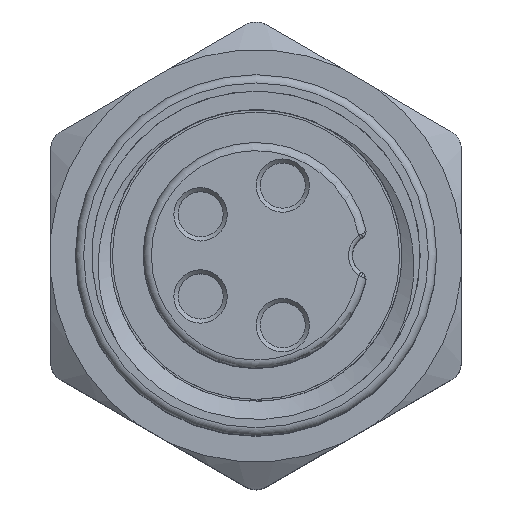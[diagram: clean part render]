
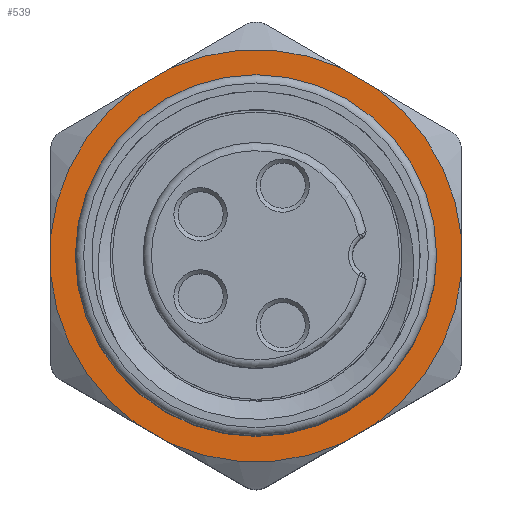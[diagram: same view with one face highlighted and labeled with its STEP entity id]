
A CAD part, top view. The second image highlights one B-rep face of the part: STEP entity #539.
In plain terms, the highlighted planar face has unit normal (0, 0, 1).
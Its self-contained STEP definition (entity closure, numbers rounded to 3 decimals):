
#279=PLANE('',#2256);
#340=LINE('',#3674,#439);
#341=LINE('',#3678,#440);
#342=LINE('',#3682,#441);
#343=LINE('',#3686,#442);
#344=LINE('',#3690,#443);
#345=LINE('',#3694,#444);
#439=VECTOR('',#2490,1.);
#440=VECTOR('',#2493,1.);
#441=VECTOR('',#2496,1.);
#442=VECTOR('',#2499,1.);
#443=VECTOR('',#2502,1.);
#444=VECTOR('',#2505,1.);
#539=ADVANCED_FACE('',(#804,#805),#279,.F.);
#804=FACE_BOUND('',#888,.T.);
#805=FACE_BOUND('',#889,.T.);
#888=EDGE_LOOP('',(#1073));
#889=EDGE_LOOP('',(#1074,#1075,#1076,#1077,#1078,#1079,#1080,#1081,#1082,
#1083,#1084,#1085));
#1073=ORIENTED_EDGE('',*,*,#1855,.T.);
#1074=ORIENTED_EDGE('',*,*,#1856,.F.);
#1075=ORIENTED_EDGE('',*,*,#1857,.F.);
#1076=ORIENTED_EDGE('',*,*,#1858,.F.);
#1077=ORIENTED_EDGE('',*,*,#1859,.F.);
#1078=ORIENTED_EDGE('',*,*,#1860,.F.);
#1079=ORIENTED_EDGE('',*,*,#1861,.F.);
#1080=ORIENTED_EDGE('',*,*,#1862,.F.);
#1081=ORIENTED_EDGE('',*,*,#1863,.F.);
#1082=ORIENTED_EDGE('',*,*,#1864,.F.);
#1083=ORIENTED_EDGE('',*,*,#1865,.F.);
#1084=ORIENTED_EDGE('',*,*,#1866,.F.);
#1085=ORIENTED_EDGE('',*,*,#1867,.F.);
#1653=VERTEX_POINT('',#3670);
#1654=VERTEX_POINT('',#3672);
#1655=VERTEX_POINT('',#3673);
#1656=VERTEX_POINT('',#3675);
#1657=VERTEX_POINT('',#3677);
#1658=VERTEX_POINT('',#3679);
#1659=VERTEX_POINT('',#3681);
#1660=VERTEX_POINT('',#3683);
#1661=VERTEX_POINT('',#3685);
#1662=VERTEX_POINT('',#3687);
#1663=VERTEX_POINT('',#3689);
#1664=VERTEX_POINT('',#3691);
#1665=VERTEX_POINT('',#3693);
#1855=EDGE_CURVE('',#1653,#1653,#2143,.T.);
#1856=EDGE_CURVE('',#1654,#1655,#2144,.T.);
#1857=EDGE_CURVE('',#1656,#1654,#340,.T.);
#1858=EDGE_CURVE('',#1657,#1656,#2145,.T.);
#1859=EDGE_CURVE('',#1658,#1657,#341,.T.);
#1860=EDGE_CURVE('',#1659,#1658,#2146,.T.);
#1861=EDGE_CURVE('',#1660,#1659,#342,.T.);
#1862=EDGE_CURVE('',#1661,#1660,#2147,.T.);
#1863=EDGE_CURVE('',#1662,#1661,#343,.T.);
#1864=EDGE_CURVE('',#1663,#1662,#2148,.T.);
#1865=EDGE_CURVE('',#1664,#1663,#344,.T.);
#1866=EDGE_CURVE('',#1665,#1664,#2149,.T.);
#1867=EDGE_CURVE('',#1655,#1665,#345,.T.);
#2143=CIRCLE('',#2249,4.4);
#2144=CIRCLE('',#2250,5.024);
#2145=CIRCLE('',#2251,5.024);
#2146=CIRCLE('',#2252,5.024);
#2147=CIRCLE('',#2253,5.024);
#2148=CIRCLE('',#2254,5.024);
#2149=CIRCLE('',#2255,5.024);
#2249=AXIS2_PLACEMENT_3D('',#3669,#2486,#2487);
#2250=AXIS2_PLACEMENT_3D('',#3671,#2488,#2489);
#2251=AXIS2_PLACEMENT_3D('',#3676,#2491,#2492);
#2252=AXIS2_PLACEMENT_3D('',#3680,#2494,#2495);
#2253=AXIS2_PLACEMENT_3D('',#3684,#2497,#2498);
#2254=AXIS2_PLACEMENT_3D('',#3688,#2500,#2501);
#2255=AXIS2_PLACEMENT_3D('',#3692,#2503,#2504);
#2256=AXIS2_PLACEMENT_3D('',#3695,#2506,#2507);
#2486=DIRECTION('',(0.,0.,-1.));
#2487=DIRECTION('',(0.,1.,0.));
#2488=DIRECTION('',(0.,0.,-1.));
#2489=DIRECTION('',(-1.,0.,0.));
#2490=DIRECTION('',(0.,1.,0.));
#2491=DIRECTION('',(0.,0.,-1.));
#2492=DIRECTION('',(-1.,0.,0.));
#2493=DIRECTION('',(-0.866,0.5,0.));
#2494=DIRECTION('',(0.,0.,-1.));
#2495=DIRECTION('',(-1.,0.,0.));
#2496=DIRECTION('',(-0.866,-0.5,0.));
#2497=DIRECTION('',(0.,0.,-1.));
#2498=DIRECTION('',(-1.,0.,0.));
#2499=DIRECTION('',(0.,-1.,0.));
#2500=DIRECTION('',(0.,0.,-1.));
#2501=DIRECTION('',(-1.,0.,0.));
#2502=DIRECTION('',(0.866,-0.5,0.));
#2503=DIRECTION('',(0.,0.,-1.));
#2504=DIRECTION('',(-1.,0.,0.));
#2505=DIRECTION('',(0.866,0.5,0.));
#2506=DIRECTION('',(0.,0.,-1.));
#2507=DIRECTION('',(1.,0.,0.));
#3669=CARTESIAN_POINT('',(0.,0.,11.3));
#3670=CARTESIAN_POINT('',(0.,4.4,11.3));
#3671=CARTESIAN_POINT('',(0.,0.,11.3));
#3672=CARTESIAN_POINT('',(-5.,0.485,11.3));
#3673=CARTESIAN_POINT('',(-2.92,4.087,11.3));
#3674=CARTESIAN_POINT('',(-5.,-2.887,11.3));
#3675=CARTESIAN_POINT('',(-5.,-0.485,11.3));
#3676=CARTESIAN_POINT('',(0.,0.,11.3));
#3677=CARTESIAN_POINT('',(-2.92,-4.087,11.3));
#3678=CARTESIAN_POINT('',(0.,-5.774,11.3));
#3679=CARTESIAN_POINT('',(-2.08,-4.573,11.3));
#3680=CARTESIAN_POINT('',(0.,0.,11.3));
#3681=CARTESIAN_POINT('',(2.08,-4.573,11.3));
#3682=CARTESIAN_POINT('',(5.,-2.887,11.3));
#3683=CARTESIAN_POINT('',(2.92,-4.087,11.3));
#3684=CARTESIAN_POINT('',(0.,0.,11.3));
#3685=CARTESIAN_POINT('',(5.,-0.485,11.3));
#3686=CARTESIAN_POINT('',(5.,2.887,11.3));
#3687=CARTESIAN_POINT('',(5.,0.485,11.3));
#3688=CARTESIAN_POINT('',(0.,0.,11.3));
#3689=CARTESIAN_POINT('',(2.92,4.087,11.3));
#3690=CARTESIAN_POINT('',(0.,5.774,11.3));
#3691=CARTESIAN_POINT('',(2.08,4.573,11.3));
#3692=CARTESIAN_POINT('',(0.,0.,11.3));
#3693=CARTESIAN_POINT('',(-2.08,4.573,11.3));
#3694=CARTESIAN_POINT('',(-5.,2.887,11.3));
#3695=CARTESIAN_POINT('',(0.,0.,11.3));
